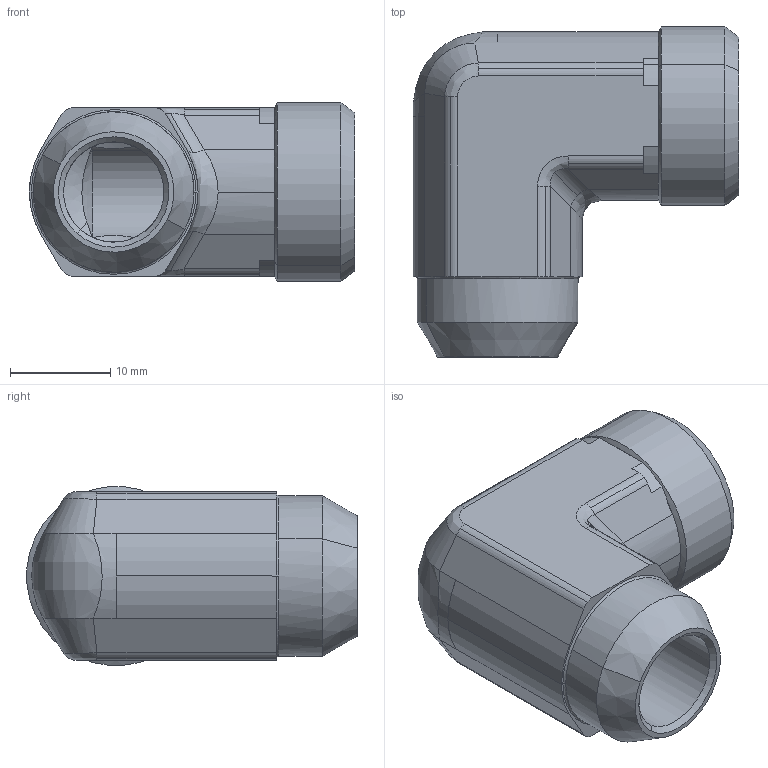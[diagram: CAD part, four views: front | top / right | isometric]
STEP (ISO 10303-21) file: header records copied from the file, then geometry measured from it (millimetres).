
FILE_DESCRIPTION((''),'2;1');
FILE_NAME('105807.stp','2007-10-31T14:43:24',(''),(''),'AutoCAD STEP 2000i','AutoCAD 2000i',', , ');
FILE_SCHEMA(('CONFIG_CONTROL_DESIGN'));
Length unit declared in the file: millimetre
Products named in the file (2): 105807.0; 3090#0
Assembly tree (1 placements, depth 2):
  105807.0
    3090#0
Bounding box: 32.4 x 32.89 x 17.79 mm (x, y, z)
Volume: 6748.9 mm3; surface area: 4315.6 mm2
Topology: 1 solids, 1 shells, 106 faces, 254 edges, 152 vertices
Faces by surface type: cylinder 48, plane 26, cone 18, bspline 14
Entity records: 3949 total; most frequent: CARTESIAN_POINT 1359, DIRECTION 556, ORIENTED_EDGE 508, EDGE_CURVE 254, AXIS2_PLACEMENT_3D 227, VERTEX_POINT 152, CIRCLE 114, EDGE_LOOP 110
